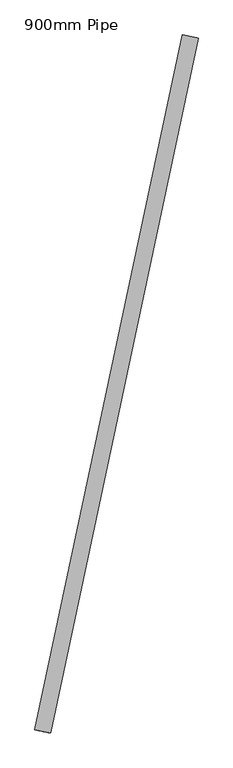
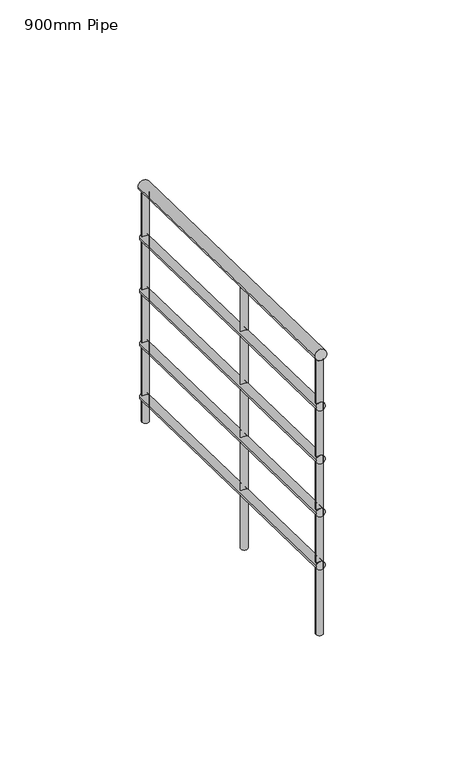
"""IFC4 building model written with IfcOpenShell, lengths in millimetres: railing geometry, 900mm Pipe."""

from ifc_helpers import new_model, si_unit, frame, origin, place, context, project, spatial, circle_curve, ellipse_curve, source, transform, mapped, element, save
from ifc_brep_helpers import plane_surface, cylinder_surface, advanced_brep


def railing_900mm_pipe_a12cd0a8(model_context):
    return source(origin(), model_context, "Body", "AdvancedBrep", [
        advanced_brep(
        [(964372.2064125, 20111.7135786, 8258.3872443), (964333.0829225, 20120.0413957, 8258.3872443), (964004.4866077, 18384.1921823, 8796.2695973), (963965.3631178, 18392.5199993, 8796.2695973)],
        [
            (0, 1, ellipse_curve(frame((964352.6446675, 20115.8774872, 8258.3872443), z_axis=(0.20819542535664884, 0.9780872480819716, 0.0), x_axis=(0.0, 0.0, -1.0)), 20.9068733, 20.0)),
            (1, 0, ellipse_curve(frame((964352.6446675, 20115.8774872, 8258.3872443), z_axis=(0.20819542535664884, 0.9780872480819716, 0.0), x_axis=(0.0, 0.0, -1.0)), 20.9068733, 20.0)),
            (2, 3, ellipse_curve(frame((963984.9248627, 18388.3560908, 8796.2695973), z_axis=(-0.20819542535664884, -0.9780872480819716, 0.0), x_axis=(0.0, 0.0, -1.0)), 20.9068733, 20.0)),
            (3, 2, ellipse_curve(frame((963984.9248627, 18388.3560908, 8796.2695973), z_axis=(-0.20819542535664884, -0.9780872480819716, 0.0), x_axis=(0.0, 0.0, -1.0)), 20.9068733, 20.0)),
            (0, 2),
            (3, 1),
        ],
        [
            plane_surface(frame((964352.6446675, 20115.8774872, 8279.2941176), z_axis=(0.20819542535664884, 0.9780872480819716, 0.0), x_axis=(0.9780872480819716, -0.20819542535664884, 0.0))),
            plane_surface(frame((963984.9248627, 18388.3560908, 8817.1764706), z_axis=(-0.20819542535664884, -0.9780872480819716, 0.0), x_axis=(0.9780872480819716, -0.20819542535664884, 0.0))),
            cylinder_surface(frame((964351.431604, 20110.1786013, 8260.1616537), z_axis=(0.19916457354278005, 0.9356609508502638, -0.29132809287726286), x_axis=(-0.9780872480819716, 0.20819542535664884, 0.0)), 20.0),
        ],
        [
            (0, [[1, 2]]),
            (1, [[3, 4]]),
            (2, [[-1, 5, -4, 6]]),
            (2, [[-2, -6, -3, -5]]),
        ],
    ),
        advanced_brep(
        [(964367.3159762, 20112.7545558, 8063.6139627), (964337.9733588, 20119.0004185, 8063.6139627), (963999.5961714, 18385.2331594, 8601.4963156), (963970.253554, 18391.4790222, 8601.4963156)],
        [
            (0, 1, ellipse_curve(frame((964352.6446675, 20115.8774872, 8063.6139627), z_axis=(0.20819542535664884, 0.9780872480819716, 0.0), x_axis=(0.0, 0.0, -1.0)), 15.680155, 15.0)),
            (1, 0, ellipse_curve(frame((964352.6446675, 20115.8774872, 8063.6139627), z_axis=(0.20819542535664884, 0.9780872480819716, 0.0), x_axis=(0.0, 0.0, -1.0)), 15.680155, 15.0)),
            (2, 3, ellipse_curve(frame((963984.9248627, 18388.3560908, 8601.4963156), z_axis=(-0.20819542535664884, -0.9780872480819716, 0.0), x_axis=(0.0, 0.0, -1.0)), 15.680155, 15.0)),
            (3, 2, ellipse_curve(frame((963984.9248627, 18388.3560908, 8601.4963156), z_axis=(-0.20819542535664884, -0.9780872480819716, 0.0), x_axis=(0.0, 0.0, -1.0)), 15.680155, 15.0)),
            (0, 2),
            (3, 1),
        ],
        [
            plane_surface(frame((964352.6446675, 20115.8774872, 8079.2941176), z_axis=(0.20819542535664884, 0.9780872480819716, 0.0), x_axis=(0.9780872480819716, -0.20819542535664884, 0.0))),
            plane_surface(frame((963984.9248627, 18388.3560908, 8617.1764706), z_axis=(-0.20819542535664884, -0.9780872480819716, 0.0), x_axis=(0.9780872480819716, -0.20819542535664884, 0.0))),
            cylinder_surface(frame((964351.7348699, 20111.6033228, 8064.9447697), z_axis=(0.19916457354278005, 0.9356609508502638, -0.29132809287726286), x_axis=(-0.9780872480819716, 0.20819542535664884, 0.0)), 15.0),
        ],
        [
            (0, [[1, 2]]),
            (1, [[3, 4]]),
            (2, [[-1, 5, -4, 6]]),
            (2, [[-2, -6, -3, -5]]),
        ],
    ),
        advanced_brep(
        [(964367.3159762, 20112.7545558, 7863.6139627), (964337.9733588, 20119.0004185, 7863.6139627), (963999.5961714, 18385.2331594, 8401.4963156), (963970.253554, 18391.4790222, 8401.4963156)],
        [
            (0, 1, ellipse_curve(frame((964352.6446675, 20115.8774872, 7863.6139627), z_axis=(0.20819542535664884, 0.9780872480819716, 0.0), x_axis=(0.0, 0.0, -1.0)), 15.680155, 15.0)),
            (1, 0, ellipse_curve(frame((964352.6446675, 20115.8774872, 7863.6139627), z_axis=(0.20819542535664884, 0.9780872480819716, 0.0), x_axis=(0.0, 0.0, -1.0)), 15.680155, 15.0)),
            (2, 3, ellipse_curve(frame((963984.9248627, 18388.3560908, 8401.4963156), z_axis=(-0.20819542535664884, -0.9780872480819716, 0.0), x_axis=(0.0, 0.0, -1.0)), 15.680155, 15.0)),
            (3, 2, ellipse_curve(frame((963984.9248627, 18388.3560908, 8401.4963156), z_axis=(-0.20819542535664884, -0.9780872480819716, 0.0), x_axis=(0.0, 0.0, -1.0)), 15.680155, 15.0)),
            (0, 2),
            (3, 1),
        ],
        [
            plane_surface(frame((964352.6446675, 20115.8774872, 7879.2941176), z_axis=(0.20819542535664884, 0.9780872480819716, 0.0), x_axis=(0.9780872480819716, -0.20819542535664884, 0.0))),
            plane_surface(frame((963984.9248627, 18388.3560908, 8417.1764706), z_axis=(-0.20819542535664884, -0.9780872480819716, 0.0), x_axis=(0.9780872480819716, -0.20819542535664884, 0.0))),
            cylinder_surface(frame((964351.7348699, 20111.6033228, 7864.9447697), z_axis=(0.19916457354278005, 0.9356609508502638, -0.29132809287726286), x_axis=(-0.9780872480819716, 0.20819542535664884, 0.0)), 15.0),
        ],
        [
            (0, [[1, 2]]),
            (1, [[3, 4]]),
            (2, [[-1, 5, -4, 6]]),
            (2, [[-2, -6, -3, -5]]),
        ],
    ),
        advanced_brep(
        [(964367.3159762, 20112.7545558, 7663.6139627), (964337.9733588, 20119.0004185, 7663.6139627), (963999.5961714, 18385.2331594, 8201.4963156), (963970.253554, 18391.4790222, 8201.4963156)],
        [
            (0, 1, ellipse_curve(frame((964352.6446675, 20115.8774872, 7663.6139627), z_axis=(0.20819542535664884, 0.9780872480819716, 0.0), x_axis=(0.0, 0.0, -1.0)), 15.680155, 15.0)),
            (1, 0, ellipse_curve(frame((964352.6446675, 20115.8774872, 7663.6139627), z_axis=(0.20819542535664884, 0.9780872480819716, 0.0), x_axis=(0.0, 0.0, -1.0)), 15.680155, 15.0)),
            (2, 3, ellipse_curve(frame((963984.9248627, 18388.3560908, 8201.4963156), z_axis=(-0.20819542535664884, -0.9780872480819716, 0.0), x_axis=(0.0, 0.0, -1.0)), 15.680155, 15.0)),
            (3, 2, ellipse_curve(frame((963984.9248627, 18388.3560908, 8201.4963156), z_axis=(-0.20819542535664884, -0.9780872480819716, 0.0), x_axis=(0.0, 0.0, -1.0)), 15.680155, 15.0)),
            (0, 2),
            (3, 1),
        ],
        [
            plane_surface(frame((964352.6446675, 20115.8774872, 7679.2941176), z_axis=(0.20819542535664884, 0.9780872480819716, 0.0), x_axis=(0.9780872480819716, -0.20819542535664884, 0.0))),
            plane_surface(frame((963984.9248627, 18388.3560908, 8217.1764706), z_axis=(-0.20819542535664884, -0.9780872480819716, 0.0), x_axis=(0.9780872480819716, -0.20819542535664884, 0.0))),
            cylinder_surface(frame((964351.7348699, 20111.6033228, 7664.9447697), z_axis=(0.19916457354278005, 0.9356609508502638, -0.29132809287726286), x_axis=(-0.9780872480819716, 0.20819542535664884, 0.0)), 15.0),
        ],
        [
            (0, [[1, 2]]),
            (1, [[3, 4]]),
            (2, [[-1, 5, -4, 6]]),
            (2, [[-2, -6, -3, -5]]),
        ],
    ),
        advanced_brep(
        [(964367.3159762, 20112.7545558, 7463.6139627), (964337.9733588, 20119.0004185, 7463.6139627), (963999.5961714, 18385.2331594, 8001.4963156), (963970.253554, 18391.4790222, 8001.4963156)],
        [
            (0, 1, ellipse_curve(frame((964352.6446675, 20115.8774872, 7463.6139627), z_axis=(0.20819542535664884, 0.9780872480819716, 0.0), x_axis=(0.0, 0.0, -1.0)), 15.680155, 15.0)),
            (1, 0, ellipse_curve(frame((964352.6446675, 20115.8774872, 7463.6139627), z_axis=(0.20819542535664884, 0.9780872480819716, 0.0), x_axis=(0.0, 0.0, -1.0)), 15.680155, 15.0)),
            (2, 3, ellipse_curve(frame((963984.9248627, 18388.3560908, 8001.4963156), z_axis=(-0.20819542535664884, -0.9780872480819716, 0.0), x_axis=(0.0, 0.0, -1.0)), 15.680155, 15.0)),
            (3, 2, ellipse_curve(frame((963984.9248627, 18388.3560908, 8001.4963156), z_axis=(-0.20819542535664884, -0.9780872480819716, 0.0), x_axis=(0.0, 0.0, -1.0)), 15.680155, 15.0)),
            (0, 2),
            (3, 1),
        ],
        [
            plane_surface(frame((964352.6446675, 20115.8774872, 7479.2941176), z_axis=(0.20819542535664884, 0.9780872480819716, 0.0), x_axis=(0.9780872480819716, -0.20819542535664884, 0.0))),
            plane_surface(frame((963984.9248627, 18388.3560908, 8017.1764706), z_axis=(-0.20819542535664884, -0.9780872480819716, 0.0), x_axis=(0.9780872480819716, -0.20819542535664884, 0.0))),
            cylinder_surface(frame((964351.7348699, 20111.6033228, 7464.9447697), z_axis=(0.19916457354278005, 0.9356609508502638, -0.29132809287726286), x_axis=(-0.9780872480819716, 0.20819542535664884, 0.0)), 15.0),
        ],
        [
            (0, [[1, 2]]),
            (1, [[3, 4]]),
            (2, [[-1, 5, -4, 6]]),
            (2, [[-2, -6, -3, -5]]),
        ],
    ),
        advanced_brep(
        [(964132.2231515, 19140.3926819, 8542.0183475), (964132.2231515, 19140.3926819, 7558.5882353), (964156.6753327, 19135.1877963, 7558.5882353), (964156.6753327, 19135.1877963, 8542.0183475)],
        [
            (0, 1),
            (1, 2, circle_curve(frame((964144.4492421, 19137.7902391, 7558.5882353), z_axis=(0.0, 0.0, 1.0), x_axis=(0.9780872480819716, -0.20819542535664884, 0.0)), 12.5)),
            (2, 3),
            (3, 0, ellipse_curve(frame((964144.4492421, 19137.7902391, 8542.0183475), z_axis=(-0.06065317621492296, -0.2849442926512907, -0.95662319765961), x_axis=(-0.19916457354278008, -0.935660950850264, 0.29132809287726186)), 13.0667958, 12.5)),
            (0, 3, ellipse_curve(frame((964144.4492421, 19137.7902391, 8542.0183475), z_axis=(-0.06065317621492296, -0.2849442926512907, -0.95662319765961), x_axis=(-0.19916457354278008, -0.935660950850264, 0.29132809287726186)), 13.0667958, 12.5)),
            (2, 1, circle_curve(frame((964144.4492421, 19137.7902391, 7558.5882353), z_axis=(0.0, 0.0, 1.0), x_axis=(0.9780872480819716, -0.20819542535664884, 0.0)), 12.5)),
        ],
        [
            cylinder_surface(frame((964144.4492421, 19137.7902391, 7458.5882353), z_axis=(0.0, 0.0, 1.0), x_axis=(0.9780872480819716, -0.20819542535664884, 0.0)), 12.5),
            plane_surface(frame((964163.6965377, 19108.1331722, 8549.6317969), z_axis=(0.06065317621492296, 0.2849442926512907, 0.95662319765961), x_axis=(-0.9780872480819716, 0.20819542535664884, 0.0))),
            plane_surface(frame((964174.106309, 19157.0375346, 7558.5882353), z_axis=(0.0, 0.0, -1.0), x_axis=(-0.9780872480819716, 0.20819542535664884, 0.0))),
        ],
        [
            (0, [[1, 2, 3, 4]]),
            (0, [[-1, 5, -3, 6]]),
            (1, [[-4, -5]]),
            (2, [[-2, -6]]),
        ],
    ),
        advanced_brep(
        [(963975.3012149, 18403.1846242, 8771.5559993), (963975.3012149, 18403.1846242, 7737.8823529), (963999.7533961, 18397.9797386, 7737.8823529), (963999.7533961, 18397.9797386, 8771.5559993)],
        [
            (0, 1),
            (1, 2, circle_curve(frame((963987.5273055, 18400.5821814, 7737.8823529), z_axis=(0.0, 0.0, 1.0), x_axis=(0.9780872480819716, -0.20819542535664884, 0.0)), 12.5)),
            (2, 3),
            (3, 0, ellipse_curve(frame((963987.5273055, 18400.5821814, 8771.5559993), z_axis=(-0.06065317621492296, -0.2849442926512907, -0.95662319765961), x_axis=(-0.19916457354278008, -0.935660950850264, 0.29132809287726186)), 13.0667958, 12.5)),
            (0, 3, ellipse_curve(frame((963987.5273055, 18400.5821814, 8771.5559993), z_axis=(-0.06065317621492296, -0.2849442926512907, -0.95662319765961), x_axis=(-0.19916457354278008, -0.935660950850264, 0.29132809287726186)), 13.0667958, 12.5)),
            (2, 1, circle_curve(frame((963987.5273055, 18400.5821814, 7737.8823529), z_axis=(0.0, 0.0, 1.0), x_axis=(0.9780872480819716, -0.20819542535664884, 0.0)), 12.5)),
        ],
        [
            cylinder_surface(frame((963987.5273055, 18400.5821814, 7637.8823529), z_axis=(0.0, 0.0, 1.0), x_axis=(0.9780872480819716, -0.20819542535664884, 0.0)), 12.5),
            plane_surface(frame((964006.7746011, 18370.9251146, 8779.1694487), z_axis=(0.06065317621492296, 0.2849442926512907, 0.95662319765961), x_axis=(-0.9780872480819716, 0.20819542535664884, 0.0))),
            plane_surface(frame((964017.1843724, 18419.829477, 7737.8823529), z_axis=(0.0, 0.0, -1.0), x_axis=(-0.9780872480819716, 0.20819542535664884, 0.0))),
        ],
        [
            (0, [[1, 2, 3, 4]]),
            (0, [[-1, 5, -3, 6]]),
            (1, [[-4, -5]]),
            (2, [[-2, -6]]),
        ],
    ),
        advanced_brep(
        [(964337.8161341, 20106.2538394, 8241.2870957), (964337.8161341, 20106.2538394, 7379.2941176), (964362.2683153, 20101.0489537, 7379.2941176), (964362.2683153, 20101.0489537, 8241.2870957)],
        [
            (0, 1),
            (1, 2, circle_curve(frame((964350.0422247, 20103.6513966, 7379.2941176), z_axis=(0.0, 0.0, 1.0), x_axis=(0.9780872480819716, -0.20819542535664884, 0.0)), 12.5)),
            (2, 3),
            (3, 0, ellipse_curve(frame((964350.0422247, 20103.6513966, 8241.2870957), z_axis=(-0.06065317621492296, -0.2849442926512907, -0.95662319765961), x_axis=(-0.19916457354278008, -0.935660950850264, 0.29132809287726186)), 13.0667958, 12.5)),
            (0, 3, ellipse_curve(frame((964350.0422247, 20103.6513966, 8241.2870957), z_axis=(-0.06065317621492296, -0.2849442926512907, -0.95662319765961), x_axis=(-0.19916457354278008, -0.935660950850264, 0.29132809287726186)), 13.0667958, 12.5)),
            (2, 1, circle_curve(frame((964350.0422247, 20103.6513966, 7379.2941176), z_axis=(0.0, 0.0, 1.0), x_axis=(0.9780872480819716, -0.20819542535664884, 0.0)), 12.5)),
        ],
        [
            cylinder_surface(frame((964350.0422247, 20103.6513966, 7279.2941176), z_axis=(0.0, 0.0, 1.0), x_axis=(0.9780872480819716, -0.20819542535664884, 0.0)), 12.5),
            plane_surface(frame((964369.2895202, 20073.9943297, 8248.9005451), z_axis=(0.06065317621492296, 0.2849442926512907, 0.95662319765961), x_axis=(-0.9780872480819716, 0.20819542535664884, 0.0))),
            plane_surface(frame((964379.6992915, 20122.8986921, 7379.2941176), z_axis=(0.0, 0.0, -1.0), x_axis=(-0.9780872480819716, 0.20819542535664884, 0.0))),
        ],
        [
            (0, [[1, 2, 3, 4]]),
            (0, [[-1, 5, -3, 6]]),
            (1, [[-4, -5]]),
            (2, [[-2, -6]]),
        ],
    ),
    ])


if __name__ == "__main__":
    model = new_model("IFC4")
    model_context = context("Model", 3, world=origin())
    ifc_project = project(units=[si_unit("LENGTHUNIT", "METRE", prefix="MILLI")], contexts=[model_context])
    site = spatial("IfcSite", under=ifc_project)
    building = spatial("IfcBuilding", under=site)
    placement = place(None, origin())
    railing_900mm_pipe_shape = railing_900mm_pipe_a12cd0a8(model_context)
    element("IfcRailing", 1, ObjectType="900mm Pipe", at=placement, inside=building, context=model_context, shape_type="MappedRepresentation", body=[
        mapped(railing_900mm_pipe_shape, transform((0.0, 0.0, 0.0), x_axis=(1.0, 0.0, 0.0), y_axis=(0.0, 1.0, 0.0), z_axis=(0.0, 0.0, 1.0))),
    ])
    save(model, "model.ifc")
